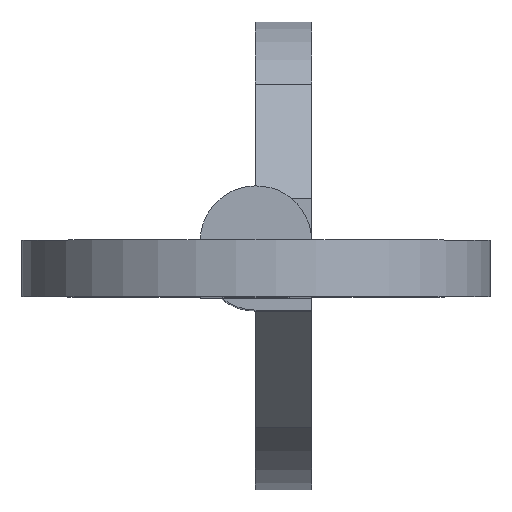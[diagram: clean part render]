
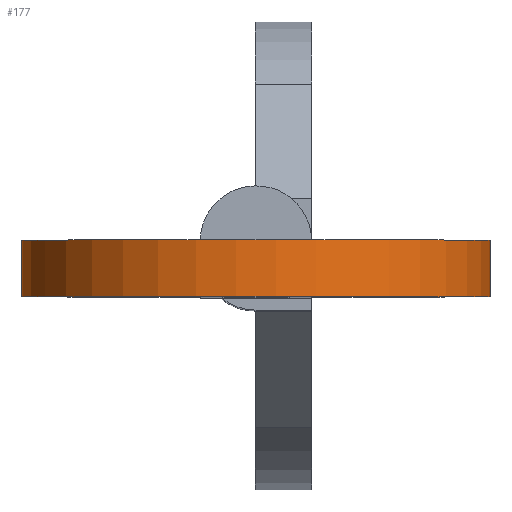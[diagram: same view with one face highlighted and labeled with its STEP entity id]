
A CAD part, top view. The second image highlights one B-rep face of the part: STEP entity #177.
In plain terms, the highlighted cylindrical face has radius 4.19 mm (diameter 8.38 mm), a partial arc.
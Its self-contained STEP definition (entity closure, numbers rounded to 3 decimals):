
#29 = DIRECTION ( 'NONE',  ( 0., -1., 0. ) ) ;
#30 = DIRECTION ( 'NONE',  ( 0., -1., 0. ) ) ;
#139 = EDGE_CURVE ( 'NONE', #444, #727, #367, .T. ) ;
#170 = VECTOR ( 'NONE', #763, 1000. ) ;
#177 = ADVANCED_FACE ( 'NONE', ( #424 ), #690, .T. ) ;
#191 = EDGE_CURVE ( 'NONE', #444, #837, #544, .T. ) ;
#198 = VERTEX_POINT ( 'NONE', #698 ) ;
#219 = EDGE_CURVE ( 'NONE', #837, #198, #244, .T. ) ;
#238 = DIRECTION ( 'NONE',  ( 0., -1., 0. ) ) ;
#244 = LINE ( 'NONE', #747, #170 ) ;
#251 = CARTESIAN_POINT ( 'NONE',  ( 3.066, 0.015, 73.345 ) ) ;
#262 = ORIENTED_EDGE ( 'NONE', *, *, #139, .F. ) ;
#266 = AXIS2_PLACEMENT_3D ( 'NONE', #369, #813, #632 ) ;
#298 = VECTOR ( 'NONE', #238, 1000. ) ;
#315 = ORIENTED_EDGE ( 'NONE', *, *, #191, .T. ) ;
#323 = AXIS2_PLACEMENT_3D ( 'NONE', #756, #30, #827 ) ;
#344 = CARTESIAN_POINT ( 'NONE',  ( -3.066, 0.015, 73.345 ) ) ;
#367 = LINE ( 'NONE', #753, #298 ) ;
#369 = CARTESIAN_POINT ( 'NONE',  ( 0., 0.015, 76.2 ) ) ;
#424 = FACE_OUTER_BOUND ( 'NONE', #847, .T. ) ;
#444 = VERTEX_POINT ( 'NONE', #251 ) ;
#461 = AXIS2_PLACEMENT_3D ( 'NONE', #552, #29, #629 ) ;
#533 = CIRCLE ( 'NONE', #461, 4.19 ) ;
#544 = CIRCLE ( 'NONE', #323, 4.19 ) ;
#552 = CARTESIAN_POINT ( 'NONE',  ( 0., -0.995, 76.2 ) ) ;
#621 = CARTESIAN_POINT ( 'NONE',  ( 3.066, -0.995, 73.345 ) ) ;
#629 = DIRECTION ( 'NONE',  ( 0., 0., -1. ) ) ;
#632 = DIRECTION ( 'NONE',  ( 0., 0., -1. ) ) ;
#650 = ORIENTED_EDGE ( 'NONE', *, *, #733, .F. ) ;
#690 = CYLINDRICAL_SURFACE ( 'NONE', #266, 4.19 ) ;
#698 = CARTESIAN_POINT ( 'NONE',  ( -3.066, -0.995, 73.345 ) ) ;
#727 = VERTEX_POINT ( 'NONE', #621 ) ;
#733 = EDGE_CURVE ( 'NONE', #727, #198, #533, .T. ) ;
#747 = CARTESIAN_POINT ( 'NONE',  ( -3.066, 0.015, 73.345 ) ) ;
#753 = CARTESIAN_POINT ( 'NONE',  ( 3.066, 0.015, 73.345 ) ) ;
#756 = CARTESIAN_POINT ( 'NONE',  ( 0., 0.015, 76.2 ) ) ;
#763 = DIRECTION ( 'NONE',  ( 0., -1., 0. ) ) ;
#800 = ORIENTED_EDGE ( 'NONE', *, *, #219, .T. ) ;
#813 = DIRECTION ( 'NONE',  ( 0., -1., 0. ) ) ;
#827 = DIRECTION ( 'NONE',  ( 0., 0., -1. ) ) ;
#837 = VERTEX_POINT ( 'NONE', #344 ) ;
#847 = EDGE_LOOP ( 'NONE', ( #650, #262, #315, #800 ) ) ;
